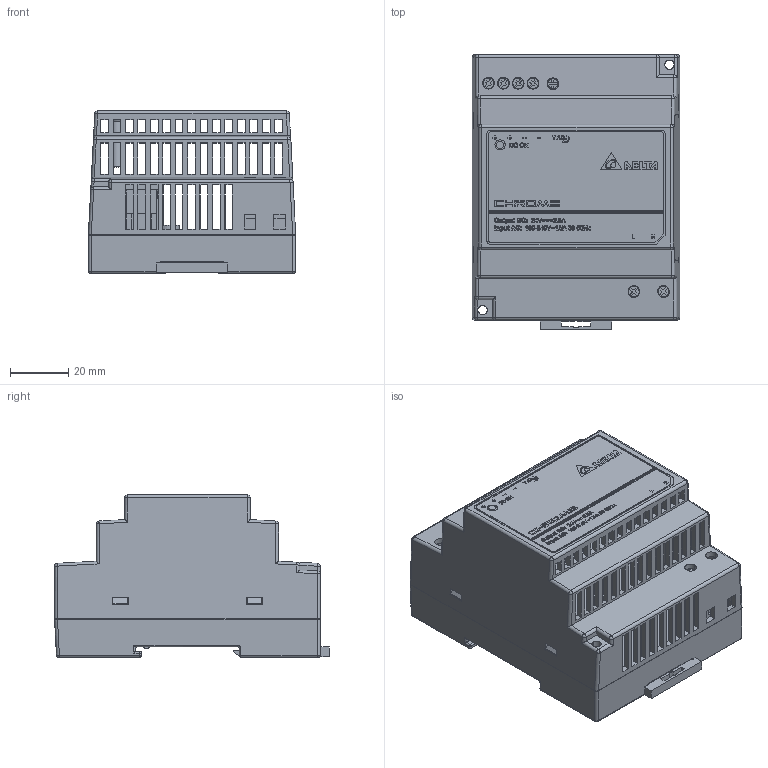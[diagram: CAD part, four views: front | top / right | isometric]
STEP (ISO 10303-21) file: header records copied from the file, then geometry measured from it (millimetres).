
FILE_DESCRIPTION((''),'2;1');
FILE_NAME('DRC-24V60W1AZ_ASM','2014-06-25T',('Anothai'),(''),'PRO/ENGINEER BY PARAMETRIC TECHNOLOGY CORPORATION, 2010180','PRO/ENGINEER BY PARAMETRIC TECHNOLOGY CORPORATION, 2010180','');
FILE_SCHEMA(('CONFIG_CONTROL_DESIGN','SHAPE_APPEARANCE_LAYERS_GROUPS'));
Products named in the file (22): 3306254900; 3306254500; 3306254500_A_LENS; ASSY_CASE_ASM; 326846870000; 3471801700; 2943003701_PWB; 307345207W_A_BMB420U103; 307345207W_A_BMB420P201; 307345207W_A_; 307345207W__ASM; 307345207W_ASM; 307301297W_A_; 307301297W_A_SCREW; 307301297W_A_CLAMP; 307301297W__ASM; 307301297W_ASM; EE_VR-; ASSY_PWB_ASM; 3109014601; 326846880000; DRC-24V60W1AZ_ASM
Assembly tree (27 placements, depth 5):
  DRC-24V60W1AZ_ASM
    ASSY_CASE_ASM
      3306254900
      3306254500
      3306254500_A_LENS
    326846870000
    3471801700
    ASSY_PWB_ASM
      2943003701_PWB
      307345207W_ASM
        307345207W__ASM
          307345207W_A_BMB420U103  x2
          307345207W_A_BMB420P201  x2
          307345207W_A_
      307301297W_ASM
        307301297W__ASM  x2
          307301297W_A_
          307301297W_A_SCREW
          307301297W_A_CLAMP
      EE_VR-
    3109014601  x2
    326846880000
Bounding box: 71 x 94.17 x 55.6 mm (x, y, z)
Volume: 69427.1 mm3; surface area: 83826.3 mm2
Topology: 25 solids, 31 shells, 3453 faces, 9359 edges, 6068 vertices
Faces by surface type: plane 2338, cylinder 669, extrusion 249, torus 55, bspline 51, cone 48, sphere 43
Entity records: 108957 total; most frequent: CARTESIAN_POINT 28527, ORIENTED_EDGE 14464, DIRECTION 12322, EDGE_CURVE 7232, VECTOR 5694, LINE 5475, VERTEX_POINT 4741, PRESENTATION_STYLE_ASSIGNMENT 4205
